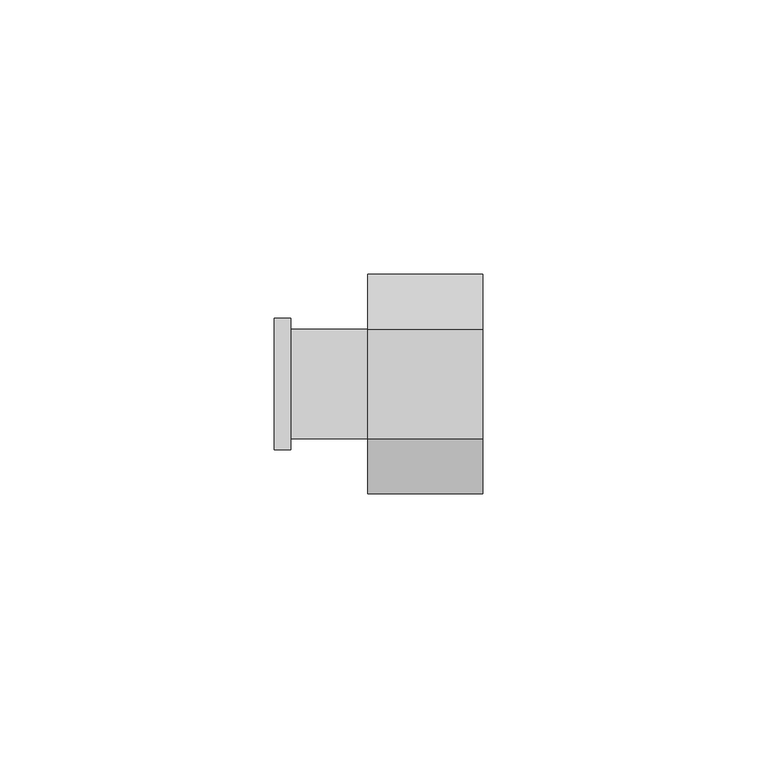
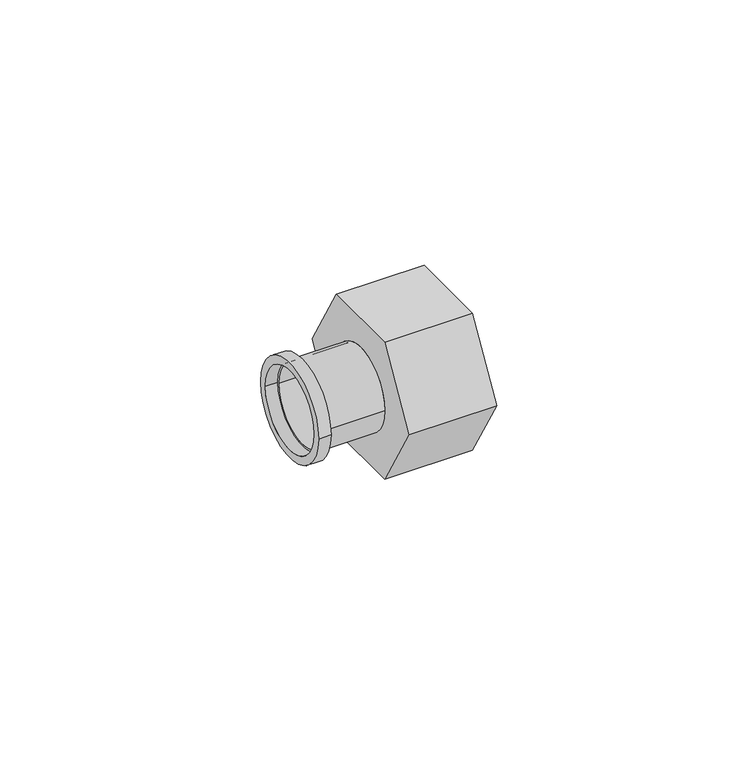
"""IFC4 building model written with IfcOpenShell, lengths in millimetres: pipe fitting geometry, БИР ПЕКС_КМП_Соединитель_Резьба_Наружная : Соединитель прямой с наружной резьбой_КМП."""

from ifc_helpers import new_model, si_unit, point, frame, origin, origin_2d, place, context, project, spatial, polyline, circle_curve, trimmed, segment, composite_curve, outline, extrude, source, transform, mapped, element, save


def pipe_fitting_cc2375a5(model_context):
    return source(origin(), model_context, "Body", "SweptSolid", [
        extrude(outline(polyline([(-10.0, -17.3205081), (-20.0, 0.0), (-10.0, 17.3205081), (10.0, 17.3205081), (20.0, 0.0), (10.0, -17.3205081), (-10.0, -17.3205081)]), holes=[composite_curve([segment(trimmed(circle_curve(origin_2d(), 10.0), [point((-10.0, 0.0))], [point((10.0, 0.0))], True, "CARTESIAN"), True, "CONTINUOUS"), segment(trimmed(circle_curve(origin_2d(), 10.0), [point((10.0, 0.0))], [point((-10.0, 0.0))], True, "CARTESIAN"), True, "CONTINUOUS")], self_intersect=False)]), frame((0.0, 0.0, 0.0), z_axis=(1.0, 0.0, 0.0), x_axis=(0.0, 1.0, 0.0)), (0.0, 0.0, 1.0), 21.0),
        extrude(outline(composite_curve([segment(trimmed(circle_curve(origin_2d(), 10.0), [point((-10.0, 0.0))], [point((10.0, 0.0))], False, "CARTESIAN"), True, "CONTINUOUS"), segment(trimmed(circle_curve(origin_2d(), 10.0), [point((10.0, 0.0))], [point((-10.0, 0.0))], False, "CARTESIAN"), True, "CONTINUOUS")], self_intersect=False), holes=[composite_curve([segment(trimmed(circle_curve(origin_2d(), 9.5), [point((-9.5, 0.0))], [point((9.5, 0.0))], True, "CARTESIAN"), True, "CONTINUOUS"), segment(trimmed(circle_curve(origin_2d(), 9.5), [point((9.5, 0.0))], [point((-9.5, 0.0))], True, "CARTESIAN"), True, "CONTINUOUS")], self_intersect=False)]), frame((-14.0, 0.0, 0.0), z_axis=(1.0, 0.0, 0.0), x_axis=(0.0, 1.0, 0.0)), (0.0, 0.0, 1.0), 14.0),
        extrude(outline(composite_curve([segment(trimmed(circle_curve(origin_2d(), 12.0), [point((-12.0, 0.0))], [point((12.0, 0.0))], False, "CARTESIAN"), True, "CONTINUOUS"), segment(trimmed(circle_curve(origin_2d(), 12.0), [point((12.0, 0.0))], [point((-12.0, 0.0))], False, "CARTESIAN"), True, "CONTINUOUS")], self_intersect=False), holes=[composite_curve([segment(trimmed(circle_curve(origin_2d(), 10.0), [point((-10.0, 0.0))], [point((10.0, 0.0))], True, "CARTESIAN"), True, "CONTINUOUS"), segment(trimmed(circle_curve(origin_2d(), 10.0), [point((10.0, 0.0))], [point((-10.0, 0.0))], True, "CARTESIAN"), True, "CONTINUOUS")], self_intersect=False)]), frame((-17.0, 0.0, 0.0), z_axis=(1.0, 0.0, 0.0), x_axis=(0.0, 1.0, 0.0)), (0.0, 0.0, 1.0), 3.0),
    ])


if __name__ == "__main__":
    model = new_model("IFC4")
    model_context = context("Model", 3, world=origin())
    ifc_project = project(units=[si_unit("LENGTHUNIT", "METRE", prefix="MILLI")], contexts=[model_context])
    site = spatial("IfcSite", under=ifc_project)
    building = spatial("IfcBuilding", under=site)
    placement = place(None, origin())
    pipe_fitting_shape = pipe_fitting_cc2375a5(model_context)
    element("IfcPipeFitting", 1, ObjectType="БИР ПЕКС_КМП_Соединитель_Резьба_Наружная : Соединитель прямой с наружной резьбой_КМП", at=placement, inside=building, context=model_context, shape_type="MappedRepresentation", body=[
        mapped(pipe_fitting_shape, transform((0.0, 0.0, 0.0), x_axis=(1.0, 0.0, 0.0), y_axis=(0.0, 1.0, 0.0), z_axis=(0.0, 0.0, 1.0))),
    ])
    save(model, "model.ifc")
